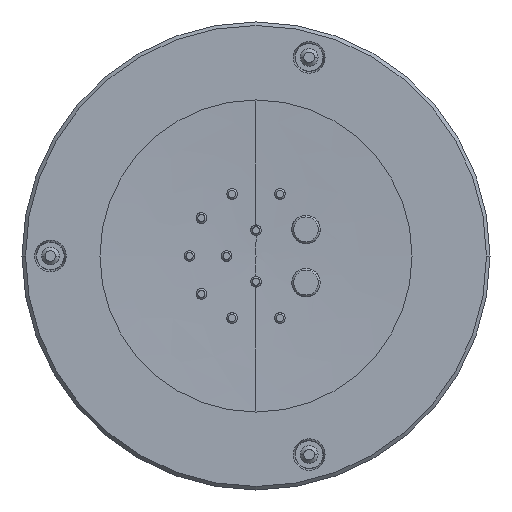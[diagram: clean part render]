
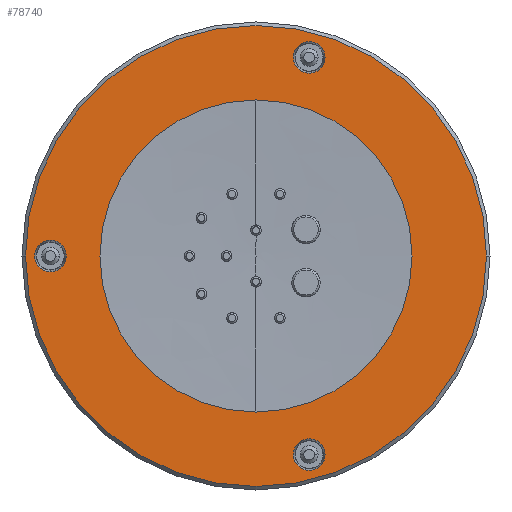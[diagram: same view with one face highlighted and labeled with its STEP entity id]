
A CAD part, left-side view. The second image highlights one B-rep face of the part: STEP entity #78740.
In plain terms, the highlighted planar face has unit normal (-1, 0, 0).
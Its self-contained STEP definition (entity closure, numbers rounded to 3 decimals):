
#21333=CARTESIAN_POINT('',(-12.5,0.,0.));
#21334=DIRECTION('',(-1.,0.,0.));
#21335=DIRECTION('',(0.,-1.,0.));
#21336=AXIS2_PLACEMENT_3D('',#21333,#21334,#21335);
#21338=CARTESIAN_POINT('',(-12.5,0.,0.));
#21339=DIRECTION('',(-1.,0.,0.));
#21340=DIRECTION('',(0.,1.,0.));
#21341=AXIS2_PLACEMENT_3D('',#21338,#21339,#21340);
#21343=CARTESIAN_POINT('',(-12.5,5.8,0.));
#21344=DIRECTION('',(1.,0.,0.));
#21345=DIRECTION('',(0.,1.,0.));
#21346=AXIS2_PLACEMENT_3D('',#21343,#21344,#21345);
#21348=CARTESIAN_POINT('',(-12.5,5.8,0.));
#21349=DIRECTION('',(1.,0.,0.));
#21350=DIRECTION('',(0.,-1.,0.));
#21351=AXIS2_PLACEMENT_3D('',#21348,#21349,#21350);
#21353=CARTESIAN_POINT('',(-12.5,-1.501,-5.602));
#21354=DIRECTION('',(1.,0.,0.));
#21355=DIRECTION('',(0.,1.,0.));
#21356=AXIS2_PLACEMENT_3D('',#21353,#21354,#21355);
#21358=CARTESIAN_POINT('',(-12.5,-1.501,-5.602));
#21359=DIRECTION('',(1.,0.,0.));
#21360=DIRECTION('',(0.,-1.,0.));
#21361=AXIS2_PLACEMENT_3D('',#21358,#21359,#21360);
#21363=CARTESIAN_POINT('',(-12.5,-1.501,5.602));
#21364=DIRECTION('',(1.,0.,0.));
#21365=DIRECTION('',(0.,1.,0.));
#21366=AXIS2_PLACEMENT_3D('',#21363,#21364,#21365);
#21368=CARTESIAN_POINT('',(-12.5,-1.501,5.602));
#21369=DIRECTION('',(1.,0.,0.));
#21370=DIRECTION('',(0.,-1.,0.));
#21371=AXIS2_PLACEMENT_3D('',#21368,#21369,#21370);
#21405=CARTESIAN_POINT('',(-12.5,0.,0.));
#21406=DIRECTION('',(1.,0.,0.));
#21407=DIRECTION('',(0.,1.,0.));
#21408=AXIS2_PLACEMENT_3D('',#21405,#21406,#21407);
#22075=CARTESIAN_POINT('',(-12.5,0.,0.));
#22076=DIRECTION('',(-1.,0.,0.));
#22077=DIRECTION('',(0.,1.,0.));
#22078=AXIS2_PLACEMENT_3D('',#22075,#22076,#22077);
#67645=CARTESIAN_POINT('',(-12.5,4.4,0.));
#67646=CARTESIAN_POINT('',(-12.5,-4.4,0.));
#67647=VERTEX_POINT('',#67645);
#67648=VERTEX_POINT('',#67646);
#67657=CARTESIAN_POINT('',(-12.5,-6.5,0.));
#67658=CARTESIAN_POINT('',(-12.5,6.5,0.));
#67659=VERTEX_POINT('',#67657);
#67660=VERTEX_POINT('',#67658);
#67973=CARTESIAN_POINT('',(-12.5,6.248,0.));
#67974=CARTESIAN_POINT('',(-12.5,5.353,0.));
#67975=VERTEX_POINT('',#67973);
#67976=VERTEX_POINT('',#67974);
#67981=CARTESIAN_POINT('',(-12.5,-1.054,-5.602));
#67982=CARTESIAN_POINT('',(-12.5,-1.949,-5.602));
#67983=VERTEX_POINT('',#67981);
#67984=VERTEX_POINT('',#67982);
#67989=CARTESIAN_POINT('',(-12.5,-1.054,5.602));
#67990=CARTESIAN_POINT('',(-12.5,-1.949,5.602));
#67991=VERTEX_POINT('',#67989);
#67992=VERTEX_POINT('',#67990);
#78706=CARTESIAN_POINT('',(-12.5,0.,0.));
#78707=DIRECTION('',(1.,0.,0.));
#78708=DIRECTION('',(0.,-1.,0.));
#78709=AXIS2_PLACEMENT_3D('',#78706,#78707,#78708);
#78710=PLANE('',#78709);
#78711=ORIENTED_EDGE('',*,*,#78689,.F.);
#78713=ORIENTED_EDGE('',*,*,#78712,.F.);
#78714=EDGE_LOOP('',(#78711,#78713));
#78715=FACE_OUTER_BOUND('',#78714,.F.);
#78717=ORIENTED_EDGE('',*,*,#78716,.F.);
#78719=ORIENTED_EDGE('',*,*,#78718,.T.);
#78720=EDGE_LOOP('',(#78717,#78719));
#78721=FACE_BOUND('',#78720,.F.);
#78723=ORIENTED_EDGE('',*,*,#78722,.F.);
#78725=ORIENTED_EDGE('',*,*,#78724,.F.);
#78726=EDGE_LOOP('',(#78723,#78725));
#78727=FACE_BOUND('',#78726,.F.);
#78729=ORIENTED_EDGE('',*,*,#78728,.F.);
#78731=ORIENTED_EDGE('',*,*,#78730,.F.);
#78732=EDGE_LOOP('',(#78729,#78731));
#78733=FACE_BOUND('',#78732,.F.);
#78735=ORIENTED_EDGE('',*,*,#78734,.F.);
#78737=ORIENTED_EDGE('',*,*,#78736,.F.);
#78738=EDGE_LOOP('',(#78735,#78737));
#78739=FACE_BOUND('',#78738,.F.);
#21337=CIRCLE('',#21336,6.5);
#21342=CIRCLE('',#21341,6.5);
#21347=CIRCLE('',#21346,0.448);
#21352=CIRCLE('',#21351,0.448);
#21357=CIRCLE('',#21356,0.448);
#21362=CIRCLE('',#21361,0.448);
#21367=CIRCLE('',#21366,0.448);
#21372=CIRCLE('',#21371,0.448);
#21409=CIRCLE('',#21408,4.4);
#22079=CIRCLE('',#22078,4.4);
#78689=EDGE_CURVE('',#67659,#67660,#21337,.T.);
#78712=EDGE_CURVE('',#67660,#67659,#21342,.T.);
#78716=EDGE_CURVE('',#67647,#67648,#21409,.T.);
#78718=EDGE_CURVE('',#67647,#67648,#22079,.T.);
#78722=EDGE_CURVE('',#67975,#67976,#21347,.T.);
#78724=EDGE_CURVE('',#67976,#67975,#21352,.T.);
#78728=EDGE_CURVE('',#67983,#67984,#21357,.T.);
#78730=EDGE_CURVE('',#67984,#67983,#21362,.T.);
#78734=EDGE_CURVE('',#67991,#67992,#21367,.T.);
#78736=EDGE_CURVE('',#67992,#67991,#21372,.T.);
#78740=ADVANCED_FACE('',(#78715,#78721,#78727,#78733,#78739),#78710,.F.);
